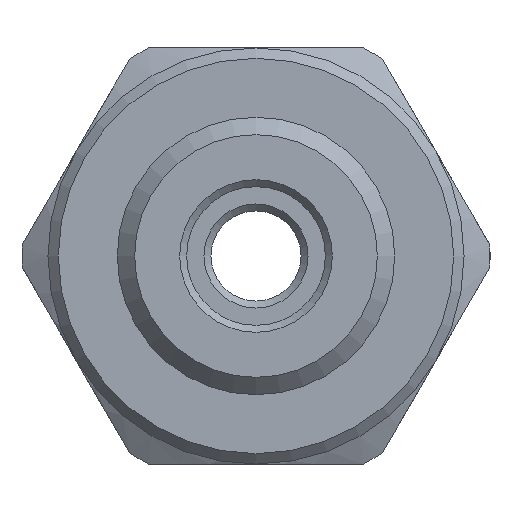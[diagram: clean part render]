
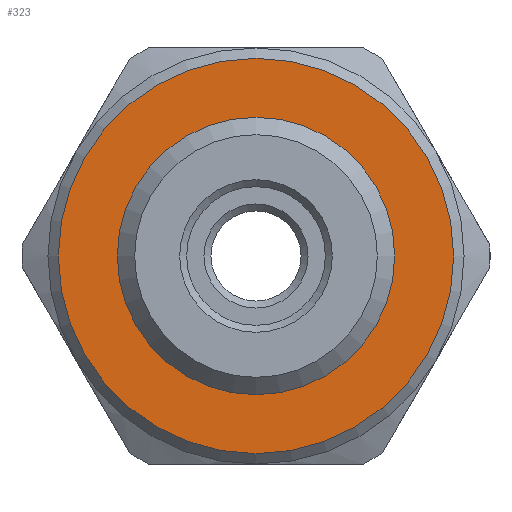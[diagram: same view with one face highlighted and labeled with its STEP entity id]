
A CAD part, left-side view. The second image highlights one B-rep face of the part: STEP entity #323.
In plain terms, the highlighted planar face has unit normal (-1, 0, 0).
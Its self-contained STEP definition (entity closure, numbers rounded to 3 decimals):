
#323=ADVANCED_FACE('',(#851,#852),#853,.F.);
#569=EDGE_CURVE('',#1224,#1224,#1225,.T.);
#851=FACE_BOUND('',#1533,.T.);
#852=FACE_OUTER_BOUND('',#1534,.T.);
#853=PLANE('',#1535);
#1224=VERTEX_POINT('',#2240);
#1225=CIRCLE('',#2241,5.7);
#1533=EDGE_LOOP('',(#2946));
#1534=EDGE_LOOP('',(#2947));
#1535=AXIS2_PLACEMENT_3D('',#2948,#2949,#2950);
#2240=CARTESIAN_POINT('',(-4.0,0.,5.7));
#2241=AXIS2_PLACEMENT_3D('',#3439,#3440,#3441);
#2946=ORIENTED_EDGE('',*,*,#3613,.F.);
#2947=ORIENTED_EDGE('',*,*,#569,.F.);
#2948=CARTESIAN_POINT('',(-4.0,6.0,0.0));
#2949=DIRECTION('',(1.0,0.0,0.0));
#2950=DIRECTION('',(0.0,1.0,0.0));
#3439=CARTESIAN_POINT('',(-4.0,0.0,0.0));
#3440=DIRECTION('',(1.0,0.0,-0.0));
#3441=DIRECTION('',(0.0,0.,1.0));
#3613=EDGE_CURVE('',#3709,#3709,#3710,.T.);
#3709=VERTEX_POINT('',#3806);
#3710=CIRCLE('',#3807,4.);
#3806=CARTESIAN_POINT('',(-4.0,-4.,0.));
#3807=AXIS2_PLACEMENT_3D('',#3873,#3874,#3875);
#3873=CARTESIAN_POINT('',(-4.0,0.,0.));
#3874=DIRECTION('',(-1.0,0.0,0.0));
#3875=DIRECTION('',(0.0,-1.0,0.0));
